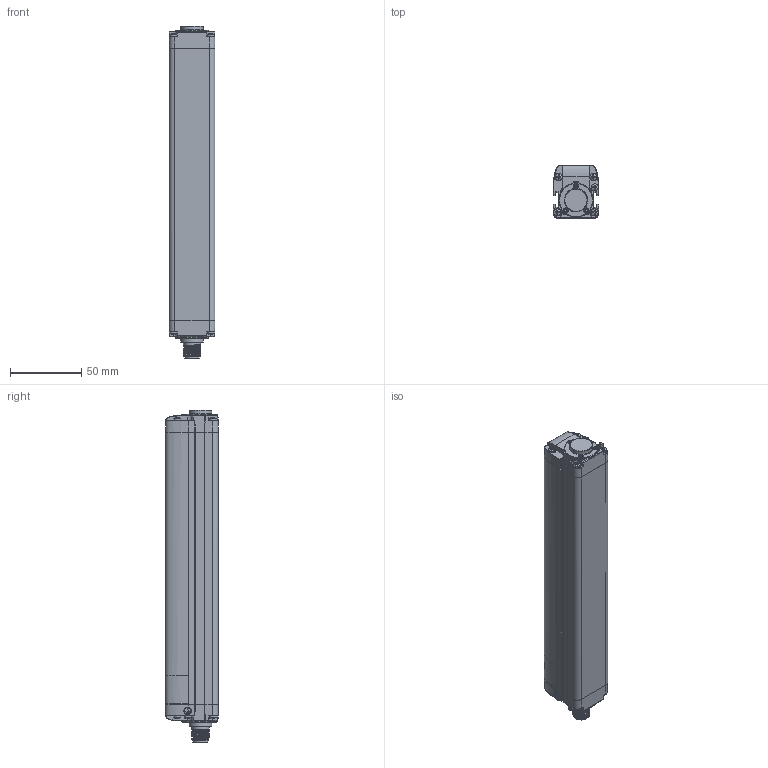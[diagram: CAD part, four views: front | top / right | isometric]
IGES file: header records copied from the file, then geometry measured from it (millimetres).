
Global section: file name: D:\Studi\DSD-0157.igs; preprocessor: I-DEAS 3D IGES Translator 11; date: 20080609.155004; units: millimetre
Bounding box: 32.3 x 36.9 x 233.34 mm (x, y, z)
Volume: 198321.9 mm3; surface area: 58946.8 mm2
Topology: 12 solids, 12 shells, 1619 faces, 6316 edges, 5168 vertices
Faces by surface type: bspline 1619
